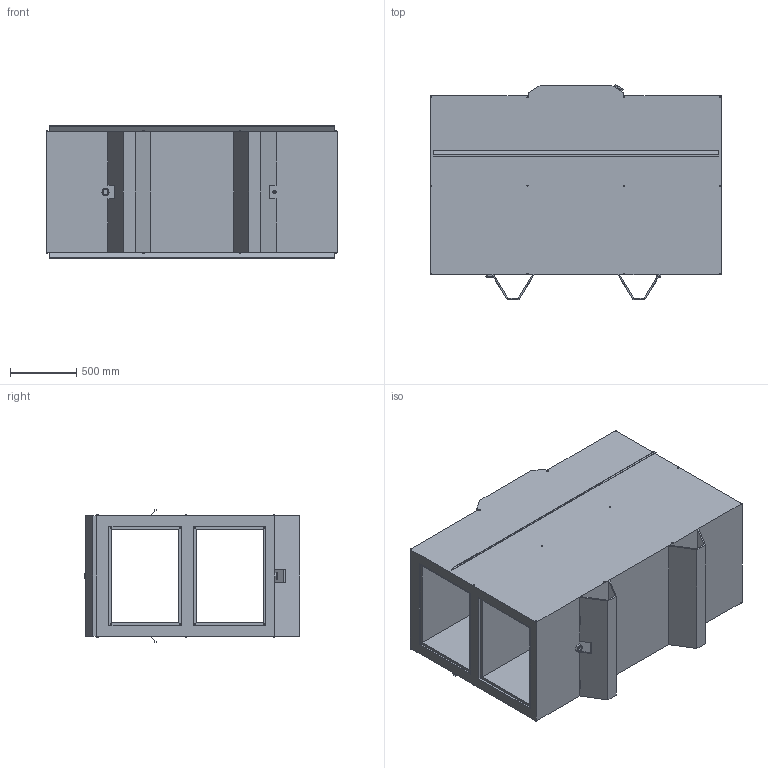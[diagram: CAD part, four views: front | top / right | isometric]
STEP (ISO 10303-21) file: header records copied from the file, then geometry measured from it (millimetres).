
FILE_DESCRIPTION(/* description */ (''),/* implementation_level */ '2;1');
FILE_NAME(/* name */ 'Z:\Output\KWL_EC_2600_S_Pro_WW-08332-003.stp',/* time_stamp */ '2017-07-17T12:00:02+02:00',/* author */ ('Engineering1'),/* organization */ (''),/* preprocessor_version */ 'ST-DEVELOPER v16.5',/* originating_system */ 'Autodesk Inventor 2017',/* authorisation */ '');
FILE_SCHEMA (('AUTOMOTIVE_DESIGN { 1 0 10303 214 3 1 1 }'));
Length unit declared in the file: millimetre
Products named in the file (1): KWL-4
Bounding box: 2195 x 1622.72 x 999 mm (x, y, z)
Volume: 1178480629.8 mm3; surface area: 24228991.1 mm2
Topology: 1 solids, 1 shells, 198 faces, 490 edges, 311 vertices
Faces by surface type: plane 137, cylinder 45, cone 16
Full cylindrical faces by diameter (mm): 8 x16, 9 x24, 12.7 x1, 26.7 x1, 38.1 x1, 52.1 x1, 70 x1
Entity records: 5433 total; most frequent: DIRECTION 902, CARTESIAN_POINT 879, ORIENTED_EDGE 798, EDGE_CURVE 399, AXIS2_PLACEMENT_3D 304, LINE 294, VECTOR 294, EDGE_LOOP 292
